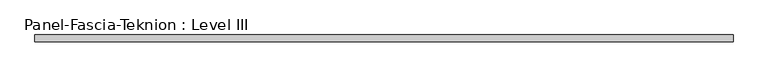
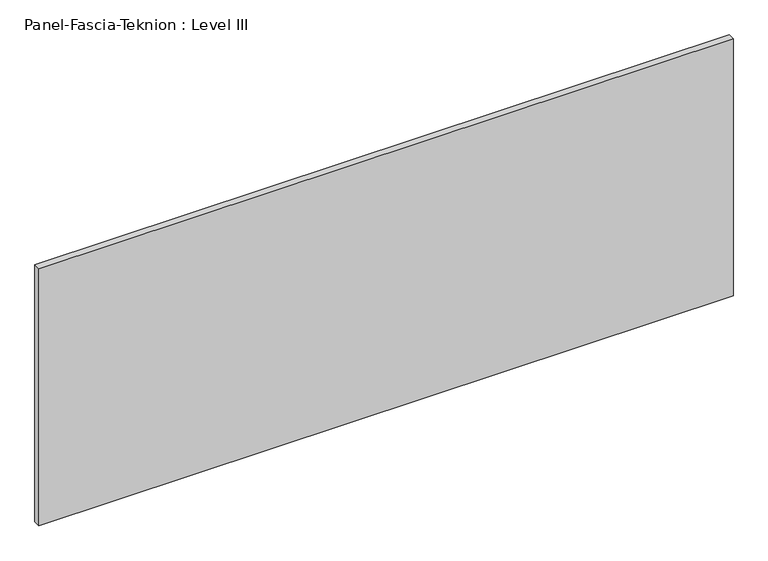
"""IFC4 building model written with IfcOpenShell, lengths in millimetres: proxy geometry, Panel-Fascia-Teknion : Level III."""

from ifc_helpers import new_model, si_unit, frame, origin, place, context, project, spatial, polyline, outline, extrude, source, transform, mapped, element, save


def panel_fascia_teknion_level_iii_81271ac9(model_context):
    return source(origin(), model_context, "Body", "SweptSolid", [
        extrude(outline(polyline([(962.6147563, 9.525), (962.6147563, -9.525), (-962.6147562, -9.525), (-962.6147562, 9.525), (962.6147563, 9.525)])), frame((0.0, 0.0, 3.175), z_axis=(0.0, 0.0, 1.0), x_axis=(1.0, 0.0, 0.0)), (0.0, 0.0, 1.0), 753.618),
    ])


if __name__ == "__main__":
    model = new_model("IFC4")
    model_context = context("Model", 3, world=origin())
    ifc_project = project(units=[si_unit("LENGTHUNIT", "METRE", prefix="MILLI")], contexts=[model_context])
    site = spatial("IfcSite", under=ifc_project)
    building = spatial("IfcBuilding", under=site)
    placement = place(None, origin())
    panel_fascia_teknion_level_iii_shape = panel_fascia_teknion_level_iii_81271ac9(model_context)
    element("IfcBuildingElementProxy", 1, Name="Panel-Fascia-Teknion : Level III", ObjectType="Panel-Fascia-Teknion : Level III", at=placement, inside=building, context=model_context, shape_type="MappedRepresentation", body=[
        mapped(panel_fascia_teknion_level_iii_shape, transform((0.0, 0.0, 0.0), x_axis=(1.0, 0.0, 0.0), y_axis=(0.0, 1.0, 0.0), z_axis=(0.0, 0.0, 1.0))),
    ])
    save(model, "model.ifc")
